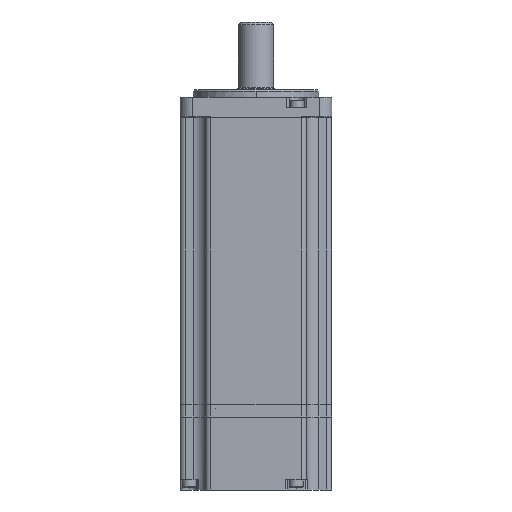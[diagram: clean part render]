
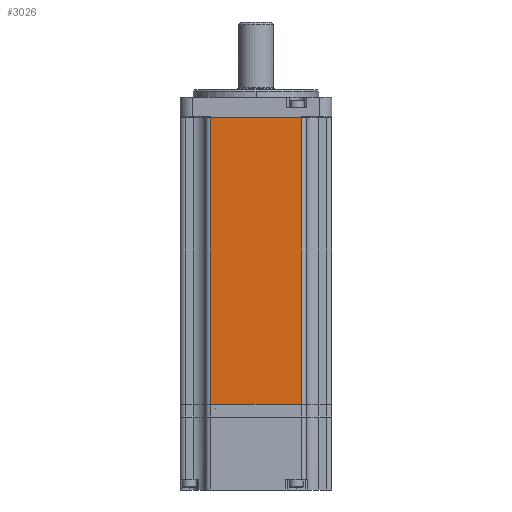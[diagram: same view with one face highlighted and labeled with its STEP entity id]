
A CAD part, front view. The second image highlights one B-rep face of the part: STEP entity #3026.
In plain terms, the highlighted planar face has unit normal (0, -1, 0).
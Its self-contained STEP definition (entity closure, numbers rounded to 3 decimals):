
#1359 = EDGE_LOOP ( 'NONE', ( #11521, #11522, #11523, #11524 ) ) ;
#3026 = ADVANCED_FACE ( 'NONE', ( #20882 ), #23528, .F. ) ;
#8270 = EDGE_CURVE ( 'NONE', #12428, #12429, #32778, .T. ) ;
#8285 = EDGE_CURVE ( 'NONE', #12435, #12438, #32798, .T. ) ;
#8306 = EDGE_CURVE ( 'NONE', #12438, #12429, #32830, .T. ) ;
#8307 = EDGE_CURVE ( 'NONE', #12428, #12435, #32832, .T. ) ;
#11521 = ORIENTED_EDGE ( 'NONE', *, *, #8285, .T. ) ;
#11522 = ORIENTED_EDGE ( 'NONE', *, *, #8306, .T. ) ;
#11523 = ORIENTED_EDGE ( 'NONE', *, *, #8270, .F. ) ;
#11524 = ORIENTED_EDGE ( 'NONE', *, *, #8307, .T. ) ;
#12428 = VERTEX_POINT ( 'NONE', #38656 ) ;
#12429 = VERTEX_POINT ( 'NONE', #38657 ) ;
#12435 = VERTEX_POINT ( 'NONE', #38663 ) ;
#12438 = VERTEX_POINT ( 'NONE', #38666 ) ;
#18706 = AXIS2_PLACEMENT_3D ( 'NONE', #23524, #23530, #23531 ) ;
#20882 = FACE_OUTER_BOUND ( 'NONE', #1359, .T. ) ;
#23524 = CARTESIAN_POINT ( 'NONE',  ( -20., -30.1, 114. ) ) ;
#23528 = PLANE ( 'NONE',  #18706 ) ;
#23530 = DIRECTION ( 'NONE',  ( 0., 1., 0. ) ) ;
#23531 = DIRECTION ( 'NONE',  ( 0., 0., 1. ) ) ;
#32778 = LINE ( 'NONE', #34548, #32780 ) ;
#32780 = VECTOR ( 'NONE', #34549, 1000. ) ;
#32798 = LINE ( 'NONE', #34592, #32800 ) ;
#32800 = VECTOR ( 'NONE', #34587, 1000. ) ;
#32830 = LINE ( 'NONE', #34645, #32833 ) ;
#32832 = LINE ( 'NONE', #34647, #32835 ) ;
#32833 = VECTOR ( 'NONE', #34646, 1000. ) ;
#32835 = VECTOR ( 'NONE', #34648, 1000. ) ;
#34548 = CARTESIAN_POINT ( 'NONE',  ( -20., -30.1, 114. ) ) ;
#34549 = DIRECTION ( 'NONE',  ( 1., 0., 0. ) ) ;
#34587 = DIRECTION ( 'NONE',  ( 1., 0., 0. ) ) ;
#34592 = CARTESIAN_POINT ( 'NONE',  ( -20., -30.1, 0. ) ) ;
#34645 = CARTESIAN_POINT ( 'NONE',  ( 18., -30.1, 114. ) ) ;
#34646 = DIRECTION ( 'NONE',  ( 0., 0., 1. ) ) ;
#34647 = CARTESIAN_POINT ( 'NONE',  ( -18., -30.1, 114. ) ) ;
#34648 = DIRECTION ( 'NONE',  ( 0., 0., -1. ) ) ;
#38656 = CARTESIAN_POINT ( 'NONE',  ( -18., -30.1, 114. ) ) ;
#38657 = CARTESIAN_POINT ( 'NONE',  ( 18., -30.1, 114. ) ) ;
#38663 = CARTESIAN_POINT ( 'NONE',  ( -18., -30.1, 0. ) ) ;
#38666 = CARTESIAN_POINT ( 'NONE',  ( 18., -30.1, 0. ) ) ;
